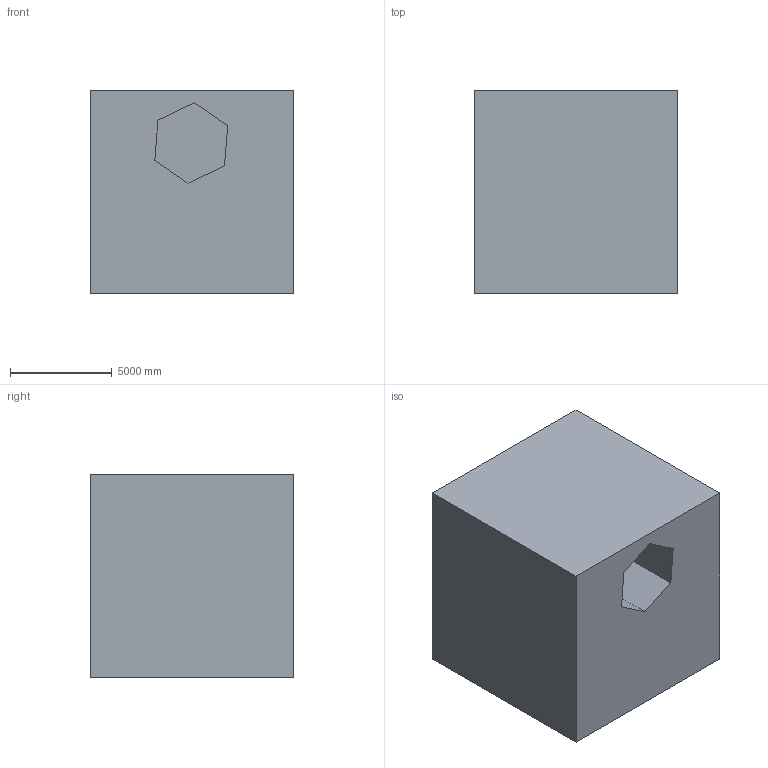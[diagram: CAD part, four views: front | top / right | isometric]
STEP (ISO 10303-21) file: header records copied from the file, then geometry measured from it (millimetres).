
FILE_DESCRIPTION (( 'STEP AP203' ), '1' );
FILE_NAME ('1297.STEP', '2022-08-18T13:37:20', ( 'user' ), ( '' ), 'SwSTEP 2.0', 'SolidWorks 2021', '' );
FILE_SCHEMA (( 'CONFIG_CONTROL_DESIGN' ));
Length unit declared in the file: centimetre
Products named in the file (1): 1297
Bounding box: 10000 x 10000 x 10000 mm (x, y, z)
Volume: 894331981486.8 mm3; surface area: 719390512.3 mm2
Topology: 1 solids, 1 shells, 21 faces, 48 edges, 32 vertices
Faces by surface type: plane 19, cylinder 2
Entity records: 663 total; most frequent: CARTESIAN_POINT 102, DIRECTION 96, ORIENTED_EDGE 96, EDGE_CURVE 48, VECTOR 44, LINE 44, VERTEX_POINT 32, AXIS2_PLACEMENT_3D 26
